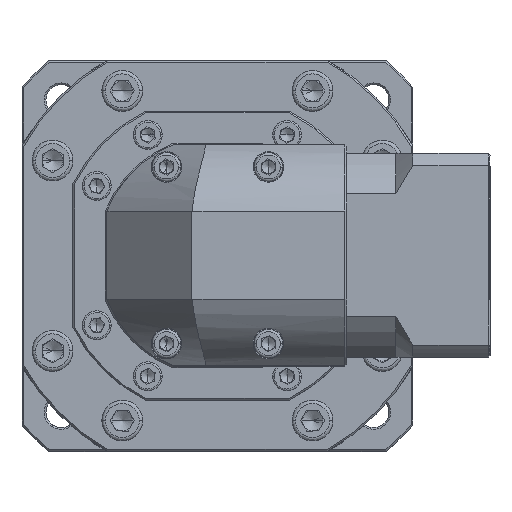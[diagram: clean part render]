
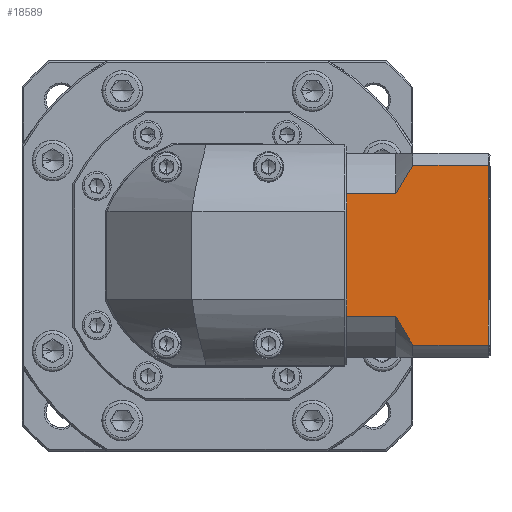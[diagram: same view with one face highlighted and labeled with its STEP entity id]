
A CAD part, top view. The second image highlights one B-rep face of the part: STEP entity #18589.
In plain terms, the highlighted planar face has unit normal (0, 0, 1).
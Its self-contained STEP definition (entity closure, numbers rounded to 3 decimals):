
#3753 = VERTEX_POINT ( 'NONE', #150343 ) ;
#3851 = EDGE_CURVE ( 'NONE', #120665, #139379, #41216, .T. ) ;
#5475 = DIRECTION ( 'NONE',  ( 1., 0., 0. ) ) ;
#13467 = DIRECTION ( 'NONE',  ( 1., 0., 0. ) ) ;
#13916 = VERTEX_POINT ( 'NONE', #124042 ) ;
#15961 = LINE ( 'NONE', #137408, #40851 ) ;
#16831 = ORIENTED_EDGE ( 'NONE', *, *, #84986, .T. ) ;
#18153 = CARTESIAN_POINT ( 'NONE',  ( 95.175, 124.337, 12.482 ) ) ;
#18589 = ADVANCED_FACE ( 'NONE', ( #29637 ), #51112, .F. ) ;
#20383 = CARTESIAN_POINT ( 'NONE',  ( 114.675, 67.879, 12.482 ) ) ;
#20860 = CARTESIAN_POINT ( 'NONE',  ( 114.675, 120.794, 12.482 ) ) ;
#23446 = VERTEX_POINT ( 'NONE', #102708 ) ;
#24289 = VERTEX_POINT ( 'NONE', #98688 ) ;
#25013 = VECTOR ( 'NONE', #68127, 1000. ) ;
#25245 = VERTEX_POINT ( 'NONE', #109298 ) ;
#25831 = CARTESIAN_POINT ( 'NONE',  ( 137.375, 124.337, 12.482 ) ) ;
#29061 = B_SPLINE_CURVE_WITH_KNOTS ( 'NONE', 3,
 ( #66720, #29602, #153472, #105490, #118913, #20383 ),
 .UNSPECIFIED., .F., .F.,
 ( 4, 2, 4 ),
 ( 0.1, 0.104, 0.109 ),
 .UNSPECIFIED. ) ;
#29602 = CARTESIAN_POINT ( 'NONE',  ( 110.426, 74.852, 12.482 ) ) ;
#29637 = FACE_OUTER_BOUND ( 'NONE', #56235, .T. ) ;
#31140 = CARTESIAN_POINT ( 'NONE',  ( 112.903, 118.055, 12.482 ) ) ;
#31314 = DIRECTION ( 'NONE',  ( -1., 0., 0. ) ) ;
#31723 = VECTOR ( 'NONE', #58197, 1000. ) ;
#32216 = CARTESIAN_POINT ( 'NONE',  ( 113.776, 119.434, 12.482 ) ) ;
#34660 = CARTESIAN_POINT ( 'NONE',  ( 136.875, 124.337, 12.482 ) ) ;
#34962 = ORIENTED_EDGE ( 'NONE', *, *, #51655, .T. ) ;
#39930 = EDGE_CURVE ( 'NONE', #101482, #23446, #150394, .T. ) ;
#40851 = VECTOR ( 'NONE', #149820, 1000. ) ;
#41216 = LINE ( 'NONE', #67831, #120133 ) ;
#41342 = CARTESIAN_POINT ( 'NONE',  ( 114.675, 120.794, 12.482 ) ) ;
#43535 = CARTESIAN_POINT ( 'NONE',  ( 110.423, 113.816, 12.482 ) ) ;
#48262 = ORIENTED_EDGE ( 'NONE', *, *, #88162, .T. ) ;
#51112 = PLANE ( 'NONE',  #82606 ) ;
#51655 = EDGE_CURVE ( 'NONE', #25245, #13916, #80277, .T. ) ;
#56015 = CARTESIAN_POINT ( 'NONE',  ( 95.175, 76.309, 12.482 ) ) ;
#56235 = EDGE_LOOP ( 'NONE', ( #111553, #34962, #75899, #16831, #81844, #125548, #91881, #128812, #61373, #48262 ) ) ;
#57120 = VECTOR ( 'NONE', #69538, 1000. ) ;
#57691 = VECTOR ( 'NONE', #150579, 1000. ) ;
#58197 = DIRECTION ( 'NONE',  ( -1., 0., 0. ) ) ;
#61373 = ORIENTED_EDGE ( 'NONE', *, *, #3851, .F. ) ;
#64010 = DIRECTION ( 'NONE',  ( 0., 0., -1. ) ) ;
#65448 = LINE ( 'NONE', #75065, #57691 ) ;
#66090 = EDGE_CURVE ( 'NONE', #23446, #139379, #65448, .T. ) ;
#66720 = CARTESIAN_POINT ( 'NONE',  ( 109.675, 76.309, 12.482 ) ) ;
#66906 = CARTESIAN_POINT ( 'NONE',  ( 95.175, 124.337, 12.482 ) ) ;
#67831 = CARTESIAN_POINT ( 'NONE',  ( 109.675, 76.309, 12.482 ) ) ;
#68127 = DIRECTION ( 'NONE',  ( 0., -1., 0. ) ) ;
#68240 = B_SPLINE_CURVE_WITH_KNOTS ( 'NONE', 3,
 ( #20860, #32216, #31140, #117248, #43535, #129594 ),
 .UNSPECIFIED., .F., .F.,
 ( 4, 2, 4 ),
 ( 0.052, 0.057, 0.062 ),
 .UNSPECIFIED. ) ;
#69538 = DIRECTION ( 'NONE',  ( 0., 1., 0. ) ) ;
#75065 = CARTESIAN_POINT ( 'NONE',  ( 95.175, 124.337, 12.482 ) ) ;
#75192 = EDGE_CURVE ( 'NONE', #25245, #3753, #129899, .T. ) ;
#75899 = ORIENTED_EDGE ( 'NONE', *, *, #131120, .F. ) ;
#80277 = LINE ( 'NONE', #34660, #57120 ) ;
#81844 = ORIENTED_EDGE ( 'NONE', *, *, #92247, .F. ) ;
#82606 = AXIS2_PLACEMENT_3D ( 'NONE', #25831, #64010, #13467 ) ;
#84986 = EDGE_CURVE ( 'NONE', #100506, #118312, #68240, .T. ) ;
#88162 = EDGE_CURVE ( 'NONE', #120665, #3753, #29061, .T. ) ;
#88367 = CARTESIAN_POINT ( 'NONE',  ( 95.175, 111.373, 12.482 ) ) ;
#91881 = ORIENTED_EDGE ( 'NONE', *, *, #39930, .T. ) ;
#92247 = EDGE_CURVE ( 'NONE', #24289, #118312, #132686, .T. ) ;
#96927 = CARTESIAN_POINT ( 'NONE',  ( 109.675, 67.879, 12.482 ) ) ;
#98688 = CARTESIAN_POINT ( 'NONE',  ( 95.175, 112.364, 12.482 ) ) ;
#100506 = VERTEX_POINT ( 'NONE', #41342 ) ;
#101482 = VERTEX_POINT ( 'NONE', #88367 ) ;
#102708 = CARTESIAN_POINT ( 'NONE',  ( 95.175, 77.3, 12.482 ) ) ;
#105490 = CARTESIAN_POINT ( 'NONE',  ( 112.9, 70.622, 12.482 ) ) ;
#109298 = CARTESIAN_POINT ( 'NONE',  ( 136.875, 67.879, 12.482 ) ) ;
#111553 = ORIENTED_EDGE ( 'NONE', *, *, #75192, .F. ) ;
#112100 = EDGE_CURVE ( 'NONE', #24289, #101482, #145210, .T. ) ;
#115405 = VECTOR ( 'NONE', #5475, 1000. ) ;
#117248 = CARTESIAN_POINT ( 'NONE',  ( 111.227, 115.248, 12.482 ) ) ;
#118312 = VERTEX_POINT ( 'NONE', #125740 ) ;
#118913 = CARTESIAN_POINT ( 'NONE',  ( 113.774, 69.242, 12.482 ) ) ;
#120133 = VECTOR ( 'NONE', #31314, 1000. ) ;
#120665 = VERTEX_POINT ( 'NONE', #150059 ) ;
#121939 = VECTOR ( 'NONE', #152087, 1000. ) ;
#124042 = CARTESIAN_POINT ( 'NONE',  ( 136.875, 120.794, 12.482 ) ) ;
#125548 = ORIENTED_EDGE ( 'NONE', *, *, #112100, .T. ) ;
#125740 = CARTESIAN_POINT ( 'NONE',  ( 109.675, 112.364, 12.482 ) ) ;
#128812 = ORIENTED_EDGE ( 'NONE', *, *, #66090, .T. ) ;
#129594 = CARTESIAN_POINT ( 'NONE',  ( 109.675, 112.364, 12.482 ) ) ;
#129899 = LINE ( 'NONE', #96927, #31723 ) ;
#131120 = EDGE_CURVE ( 'NONE', #100506, #13916, #15961, .T. ) ;
#132686 = LINE ( 'NONE', #152548, #115405 ) ;
#137408 = CARTESIAN_POINT ( 'NONE',  ( 109.675, 120.794, 12.482 ) ) ;
#139379 = VERTEX_POINT ( 'NONE', #56015 ) ;
#145210 = LINE ( 'NONE', #66906, #121939 ) ;
#149820 = DIRECTION ( 'NONE',  ( 1., 0., 0. ) ) ;
#150059 = CARTESIAN_POINT ( 'NONE',  ( 109.675, 76.309, 12.482 ) ) ;
#150343 = CARTESIAN_POINT ( 'NONE',  ( 114.675, 67.879, 12.482 ) ) ;
#150394 = LINE ( 'NONE', #18153, #25013 ) ;
#150579 = DIRECTION ( 'NONE',  ( 0., -1., 0. ) ) ;
#152087 = DIRECTION ( 'NONE',  ( 0., -1., 0. ) ) ;
#152548 = CARTESIAN_POINT ( 'NONE',  ( 109.675, 112.364, 12.482 ) ) ;
#153472 = CARTESIAN_POINT ( 'NONE',  ( 111.226, 73.427, 12.482 ) ) ;
